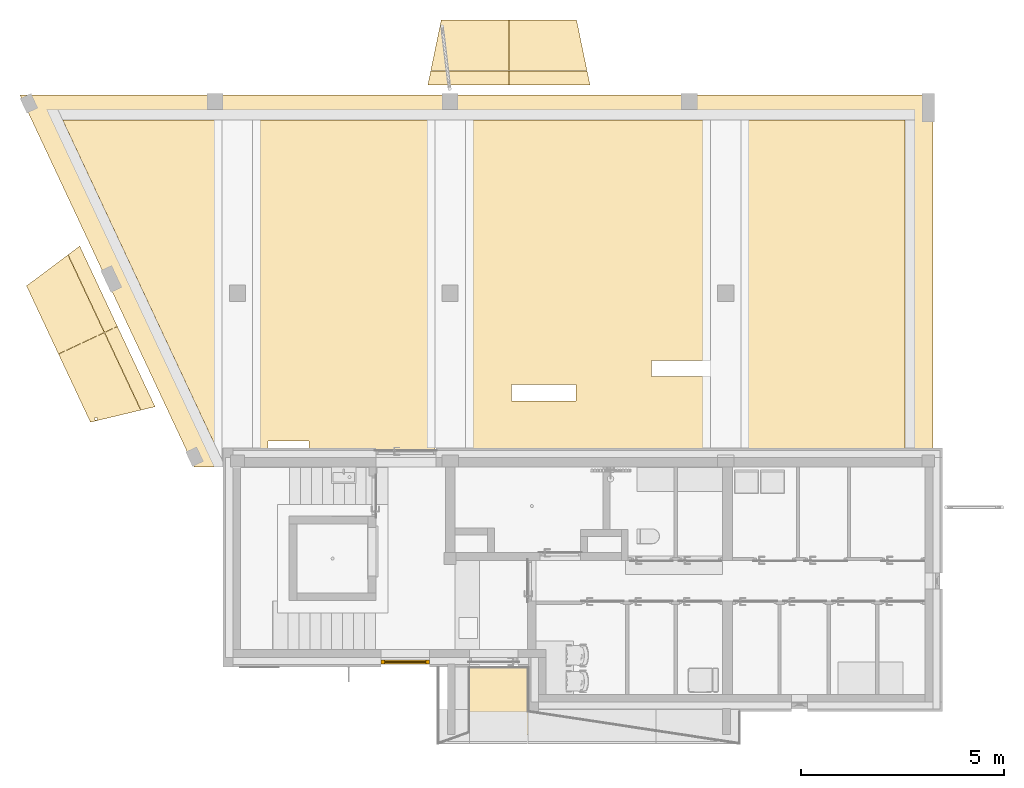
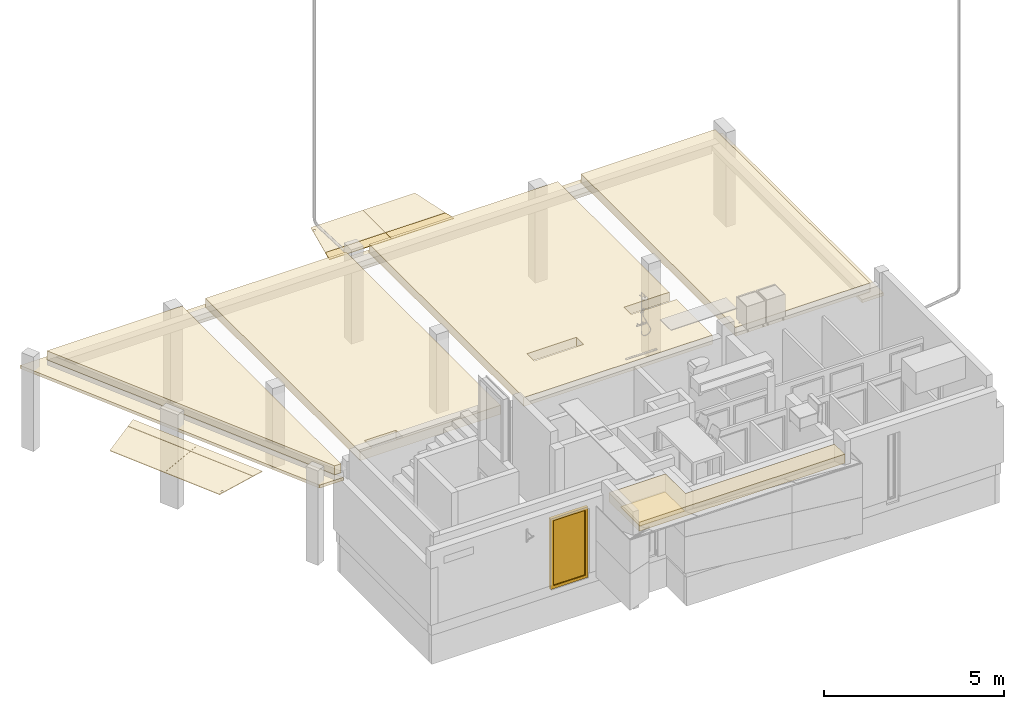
# One storey, part 8 of 55: 10 coverings, 1 window.
"""IFC2X3 building model written with IfcOpenShell, lengths in millimetres."""

from ifc_helpers import new_model, entity, si_unit, converted_unit, direction, frame, frame_2d, origin, place, context, subcontext, project, spatial, polyline, circle_curve, parameter, trimmed, segment, composite_curve, rectangle, outline, extrude, faceted_brep, source, transform, mapped, material, material_list, layer, layer_set, layer_usage, type_object, type_shapes, element, save


model = new_model("IFC2X3")

# Units and contexts
model_context = context("Model", 3, precision=0.01, world=origin(), true_north=direction((6.123233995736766e-17, 1.0)))
plan_context = context("Plan", 3, precision=0.01, world=origin(), true_north=direction((6.123233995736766e-17, 1.0)))
body_context = subcontext(model_context, "Body", "Model", "MODEL_VIEW")
ifc_project = project(units=[si_unit("LENGTHUNIT", "METRE", prefix="MILLI"), converted_unit("PLANEANGLEUNIT", "DEGREE", entity("IfcPlaneAngleMeasure", 0.017453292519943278), si_unit("PLANEANGLEUNIT", "RADIAN"), dimensions=[0, 0, 0, 0, 0, 0, 0]), si_unit("AREAUNIT", "SQUARE_METRE")], contexts=[model_context, plan_context])

# Site, building, storey
site_placement = place(None, origin())
site = spatial("IfcSite", under=ifc_project, at=site_placement, Name="Default", CompositionType="ELEMENT")
building_placement = place(site_placement, origin())
building = spatial("IfcBuilding", under=site, at=building_placement, CompositionType="ELEMENT")
storey_placement = place(building_placement, origin())
storey = spatial("IfcBuildingStorey", under=building, at=storey_placement, Name="1K", CompositionType="ELEMENT", Elevation=0.0)

# Window
ifc_material_1 = material(Name="_K. Avatäited. Raam. PVC. Valge")
ifc_material_2 = material(Name="_K. Klaas. Pakett")
ifc_material_3 = material(Name="_K. Avatäited. Raam. PVC. RAL9005")
ifc_material_list = material_list([ifc_material_1, ifc_material_2, ifc_material_3])
window_style = type_object("IfcWindowStyle", Name="HR_Window_Generic_Rectangle_1x1:A-03.1200x2400.ma", ConstructionType="NOTDEFINED", OperationType="NOTDEFINED", ParameterTakesPrecedence=False, Sizeable=False, material=ifc_material_list)
shared_shape = source(origin(), body_context, "Body", "Brep", [
    faceted_brep([(88.0, -194.0, 2312.0), (1112.0, -194.0, 2312.0), (1112.0, -194.0, 108.0), (88.0, -194.0, 108.0), (1142.0, -194.0, 2342.0), (58.0, -194.0, 2342.0), (58.0, -194.0, 78.0), (1142.0, -194.0, 78.0), (88.0, -159.0, 2312.0), (88.0, -159.0, 108.0), (1112.0, -159.0, 108.0), (1142.0, -159.0, 2342.0), (1142.0, -159.0, 78.0), (58.0, -159.0, 78.0), (58.0, -159.0, 2342.0), (1112.0, -159.0, 2312.0)], [[[0, 1, 2, 3], [4, 5, 6, 7]], [[8, 0, 3, 9]], [[9, 3, 2, 10]], [[11, 12, 13, 14], [15, 8, 9, 10]], [[1, 15, 10, 2]], [[6, 5, 14, 13]], [[7, 6, 13, 12]], [[4, 7, 12, 11]], [[15, 1, 0, 8]], [[5, 4, 11, 14]]], outer=[[False, True], [True], [True], [True, False], [True], [True], [True], [True], [True], [True]]),
    faceted_brep([(1142.0, -159.0, 2342.0), (58.0, -159.0, 2342.0), (58.0, -159.0, 78.0), (1142.0, -159.0, 78.0), (58.0, -134.0, 2342.0), (58.0, -134.0, 78.0), (1142.0, -134.0, 78.0), (1142.0, -134.0, 2342.0)], [[[0, 1, 2, 3]], [[2, 1, 4, 5]], [[3, 2, 5, 6]], [[0, 3, 6, 7]], [[7, 6, 5, 4]], [[1, 0, 7, 4]]]),
    faceted_brep([(1142.0, -134.0, 78.0), (58.0, -134.0, 78.0), (58.0, -194.0, 78.0), (1142.0, -194.0, 78.0), (58.0, -134.0, 2342.0), (58.0, -194.0, 2342.0), (1142.0, -134.0, 2342.0), (1142.0, -194.0, 2342.0), (88.0, -100.0, 108.0), (88.0, -100.0, 2312.0), (88.0, -134.0, 2312.0), (88.0, -134.0, 108.0), (1112.0, -100.0, 108.0), (1112.0, -134.0, 108.0), (1112.0, -100.0, 2312.0), (1112.0, -134.0, 2312.0), (0.0, -100.0, 2400.0), (1200.0, -100.0, 2400.0), (1200.0, -100.0, 30.0), (0.0, -100.0, 30.0), (1200.0, -194.0, 2400.0), (0.0, -194.0, 2400.0), (0.0, -194.0, 30.0), (1200.0, -194.0, 30.0), (0.0, -110.0, 30.0), (0.0, -110.0, 0.0), (0.0, -184.0, 0.0), (0.0, -184.0, 30.0), (1200.0, -184.0, 30.0), (1200.0, -184.0, 0.0), (1200.0, -110.0, 0.0), (1200.0, -110.0, 30.0)], [[[0, 1, 2, 3]], [[1, 4, 5, 2]], [[6, 0, 3, 7]], [[8, 9, 10, 11]], [[12, 8, 11, 13]], [[14, 12, 13, 15]], [[16, 17, 18, 19], [9, 8, 12, 14]], [[20, 21, 22, 23], [7, 3, 2, 5]], [[21, 16, 19, 24, 25, 26, 27, 22]], [[27, 28, 23, 22]], [[17, 20, 23, 28, 29, 30, 31, 18]], [[31, 24, 19, 18]], [[24, 31, 30, 25]], [[25, 30, 29, 26]], [[28, 27, 26, 29]], [[4, 6, 7, 5]], [[9, 14, 15, 10]], [[21, 20, 17, 16]], [[10, 15, 13, 11], [0, 6, 4, 1]]], outer=[[True], [True], [True], [True], [True], [True], [True, False], [True, False], [True], [True], [True], [True], [True], [True], [True], [True], [True], [True], [False, True]]),
])
type_shapes(window_style, [shared_shape])
window_placement = place(storey_placement, frame((4670.0, 1450.0, 0.0), z_axis=(0.0, 0.0, 1.0), x_axis=(-1.0, 0.0, 0.0)))
element("IfcWindow", 1, at=window_placement, inside=storey, type_object=window_style, material=ifc_material_list, Name="HR_Window_Generic_Rectangle_1x1:A-03.1200x2400.ma", ObjectType="HR_Window_Generic_Rectangle_1x1:A-03.1200x2400.ma", OverallHeight=2465.0000000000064, OverallWidth=1200.000000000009, context=body_context, shape_type="MappedRepresentation", body=[
    mapped(shared_shape, transform((0.0, 0.0, 0.0), scale=1.0)),
])

# Coverings
ifc_material_4 = material(Name="_K. Õhk. Roov. Fassaadikatte alusroov. Horisontaalne. 25 mm")
ifc_layer_1 = layer(ifc_material_4, 16.0)
ifc_material_5 = material(Name="_K. Välisviimistlus. Alumiinium-komposiitplaat")
ifc_layer_2 = layer(ifc_material_5, 4.0)
ifc_layer_set_1 = layer_set([ifc_layer_1, ifc_layer_2], Name="Compound Ceiling:Default. 50 mm")
ifc_layer_usage_1 = layer_usage(ifc_layer_set_1, "AXIS3", "NEGATIVE", 20.0)
covering_type_1 = type_object("IfcCoveringType", Name="Compound Ceiling:Default. 50 mm", PredefinedType="CEILING")
covering_1_placement = place(storey_placement, frame((5650.0, 368.9900650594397, 2100.0)))
element("IfcCovering", 2, at=covering_1_placement, inside=storey, type_object=covering_type_1, material=ifc_layer_usage_1, Name="Compound Ceiling:Default. 50 mm", ObjectType="Compound Ceiling:Default. 50 mm", PredefinedType="CEILING", context=body_context, shape_type="SweptSolid", body=[
    extrude(rectangle(XDim=1440.0000000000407, YDim=1081.0099349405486, at=frame_2d((0.0, 161.30795156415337), x_axis=(1.0, 0.0))), frame((720.0, 379.1970159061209, 0.0)), (0.0, 0.0, 1.0), 20.000000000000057),
])
ifc_material_6 = material(Name="_K. Soojustus. Mineraalvill")
ifc_layer_3 = layer(ifc_material_6, 300.0)
ifc_material_7 = material(Name="_K. Välisviimistlus. Alumiinium-komposiitplaat. Must")
ifc_layer_4 = layer(ifc_material_7, 4.0)
ifc_layer_set_2 = layer_set([ifc_layer_3, ifc_layer_4], Name="Compound Ceiling:Parkla soojem lagi")
ifc_layer_usage_2 = layer_usage(ifc_layer_set_2, "AXIS3", "NEGATIVE", 304.0)
covering_type_2 = type_object("IfcCoveringType", Name="Compound Ceiling:Parkla soojem lagi", PredefinedType="CEILING")
covering_2_placement = place(storey_placement, frame((-4786.2952297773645, 6405.000030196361, 2400.9998016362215)))
element("IfcCovering", 3, at=covering_2_placement, inside=storey, type_object=covering_type_2, material=ifc_layer_usage_2, Name="Compound Ceiling:Parkla soojem lagi", ObjectType="Compound Ceiling:Parkla soojem lagi", PredefinedType="CEILING", context=body_context, shape_type="SweptSolid", body=[
    extrude(outline(polyline([(-1123.9487007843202, -4390.782613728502), (-923.9487007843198, -4390.782613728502), (2931.8154802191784, -4390.782613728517), (3212.336529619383, -4390.782613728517), (-923.9487007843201, 4433.236444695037), (-924.4085059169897, 4434.217356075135), (-1123.9487007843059, 4434.217356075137), (-1123.948700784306, 4261.459298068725), (-1123.9487007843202, -4390.782613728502)])), frame((3212.336529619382, 4434.217356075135, 0.0), z_axis=(0.0, 0.0, 1.0), x_axis=(-1.0, 0.0, 0.0)), (0.0, 0.0, 1.0), 304.00000000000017),
    extrude(outline(polyline([(-4351.249999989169, -2250.0050090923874), (-4121.24999998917, -2250.005009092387), (4233.749999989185, -2250.0050090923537), (4233.749999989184, -2050.0050090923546), (4233.749999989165, 2050.0050090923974), (4233.749999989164, 2250.0050090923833), (-4111.249999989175, 2250.005009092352), (-4351.249999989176, 2250.0050090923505), (-4351.249999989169, -2250.0050090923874)]), holes=[polyline([(-4346.250000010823, 859.9949910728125), (-4346.250000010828, 1869.9949910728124), (-3946.250000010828, 1869.9949910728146), (-3946.2500000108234, 859.9949910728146), (-4346.250000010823, 859.9949910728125)])]), frame((7336.290220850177, 4591.24996981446, 0.0), z_axis=(0.0, 0.0, 1.0), x_axis=(0.0, 1.0, 0.0)), (0.0, 0.0, 1.0), 304.00000000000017),
    extrude(outline(polyline([(-3426.428571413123, -1964.2857157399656), (-3196.428571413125, -1964.2857157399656), (-1431.428571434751, -1964.2857157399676), (-1431.4285714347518, -1764.2857157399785), (-1431.428571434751, -514.2857244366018), (-1031.4285714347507, -514.2857244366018), (-1031.4285714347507, -1764.2857157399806), (-1031.4285714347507, -1964.2857157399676), (5158.571428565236, -1964.2857157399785), (5158.571428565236, -1764.2857157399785), (5158.571428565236, 3885.71429404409), (5158.571428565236, 4085.714293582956), (-3196.428571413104, 4085.7142935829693), (-3426.4285714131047, 4085.71429358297), (-3426.428571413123, -1964.2857157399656)]), holes=[polyline([(-2031.428571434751, 1355.7142755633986), (-2031.428571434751, 2945.714275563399), (-1631.428571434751, 2945.714275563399), (-1631.428571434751, 1355.7142755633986), (-2031.428571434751, 1355.7142755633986)])]), frame((14422.009505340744, 3666.4285412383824, 0.0), z_axis=(0.0, 0.0, 1.0), x_axis=(0.0, 1.0, 0.0)), (0.0, 0.0, 1.0), 304.00000000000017),
    extrude(rectangle(XDim=8584.999999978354, YDim=4300.000013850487, at=frame_2d((-38.33333333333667, -683.3333371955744), x_axis=(1.0, 0.0))), frame((18602.96188148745, 4570.833303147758, 0.0), z_axis=(0.0, 0.0, 1.0), x_axis=(0.0, 1.0, 0.0)), (0.0, 0.0, 1.0), 304.00000000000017),
])
ifc_layer_usage_3 = layer_usage(ifc_layer_set_2, "AXIS3", "NEGATIVE", 304.0)
covering_3_placement = place(storey_placement, frame((5300.0, -190.0, 2401.0)))
element("IfcCovering", 4, at=covering_3_placement, inside=storey, type_object=covering_type_2, material=ifc_layer_usage_3, Name="Compound Ceiling:Parkla soojem lagi", ObjectType="Compound Ceiling:Parkla soojem lagi", PredefinedType="CEILING", context=body_context, shape_type="SweptSolid", body=[
    extrude(outline(polyline([(986.6666666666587, -923.3333333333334), (2806.6666666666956, -923.3333333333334), (2806.666666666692, 746.6666666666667), (-3793.3333333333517, 746.6666666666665), (-3793.33333333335, 176.66666666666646), (986.6666666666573, 176.66666666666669), (986.6666666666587, -923.3333333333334)])), frame((2806.6666666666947, 746.666666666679, 0.0), z_axis=(0.0, 0.0, 1.0), x_axis=(-1.0, 0.0, 0.0)), (0.0, 0.0, 1.0), 304.00000000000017),
])
ifc_layer_5 = layer(ifc_material_6, 100.0)
ifc_layer_6 = layer(ifc_material_5, 4.0)
ifc_layer_set_3 = layer_set([ifc_layer_5, ifc_layer_6], Name="Compound Ceiling:Parkla tala alune perimeetris")
ifc_layer_usage_4 = layer_usage(ifc_layer_set_3, "AXIS3", "NEGATIVE", 104.00000000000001)
covering_type_3 = type_object("IfcCoveringType", Name="Compound Ceiling:Parkla tala alune perimeetris", PredefinedType="CEILING")
covering_4_placement = place(storey_placement, frame((-5440.970835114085, 6404.99995949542, 2116.0002021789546)))
element("IfcCovering", 5, at=covering_4_placement, inside=storey, type_object=covering_type_3, material=ifc_layer_usage_4, Name="Compound Ceiling:Parkla tala alune perimeetris", ObjectType="Compound Ceiling:Parkla tala alune perimeetris", PredefinedType="CEILING", context=body_context, shape_type="SweptSolid", body=[
    extrude(outline(polyline([(-4712.77776875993, -11395.723244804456), (4232.222231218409, -11395.723244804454), (4232.222231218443, 11135.247590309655), (-4952.777809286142, 6829.778823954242), (-4952.77780928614, 6067.723521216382), (3622.2222312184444, 10087.28034486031), (3622.2222312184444, 10082.862690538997), (3622.2222312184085, -10705.723240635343), (-4712.777768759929, -10705.723240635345), (-4712.77776875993, -11395.723244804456)])), frame((11135.24759030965, 4952.777809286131, 0.0), z_axis=(0.0, 0.0, 1.0), x_axis=(0.0, 1.0, 0.0)), (0.0, 0.0, 1.0), 103.99999999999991),
])
ifc_layer_7 = layer(ifc_material_4, 16.0)
ifc_layer_8 = layer(ifc_material_5, 4.0)
ifc_layer_set_4 = layer_set([ifc_layer_7, ifc_layer_8], Name="Compound Ceiling:Valge rõdud")
ifc_layer_usage_5 = layer_usage(ifc_layer_set_4, "AXIS3", "NEGATIVE", 20.0)
covering_type_4 = type_object("IfcCoveringType", Name="Compound Ceiling:Valge rõdud", PredefinedType="CEILING")
covering_5_placement = place(storey_placement, frame((-5279.575330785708, 7515.7644151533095, 2115.0)))
element("IfcCovering", 6, at=covering_5_placement, inside=storey, type_object=covering_type_4, material=ifc_layer_usage_5, Name="Compound Ceiling:Valge rõdud", ObjectType="Compound Ceiling:Valge rõdud", PredefinedType="CEILING", context=body_context, shape_type="SweptSolid", body=[
    extrude(outline(polyline([(-1120.9301812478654, -625.0), (992.0343479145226, -625.0), (992.0343479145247, 625.0), (-863.1385145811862, 625.0), (-1120.9301812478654, -625.0)]), holes=[composite_curve([segment(trimmed(circle_curve(frame_2d((-843.4162502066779, 464.02377480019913), x_axis=(-0.42443608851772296, -0.9054578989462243)), 35.0), [parameter(0.0)], [parameter(180.00000000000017)], True, "PARAMETER"), False, "CONTINUOUS"), segment(trimmed(circle_curve(frame_2d((-843.4162502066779, 464.02377480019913), x_axis=(-0.42443608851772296, -0.9054578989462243)), 35.0), [parameter(180.00000000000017)], [parameter(0.0)], True, "PARAMETER"), False, "CONTINUOUS")], self_intersect=False)]), frame((1776.490858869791, 1046.808141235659, 0.0), z_axis=(0.0, 0.0, 1.0), x_axis=(-0.4244360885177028, 0.9054578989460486, 0.0)), (0.0, 0.0, 1.0), 20.000000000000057),
    extrude(outline(polyline([(-625.0, -992.0327559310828), (625.0, -992.0327559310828), (625.0, 1120.9254052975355), (-625.0, 863.1401065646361), (-625.0, -992.0327559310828)])), frame((932.2589975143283, 2847.8246619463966, 0.0), z_axis=(0.0, 0.0, 1.0), x_axis=(0.9054578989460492, 0.42443608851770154, 0.0)), (0.0, 0.0, 1.0), 20.000000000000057),
])
ifc_layer_usage_6 = layer_usage(ifc_layer_set_4, "AXIS3", "NEGATIVE", 20.0)
covering_6_placement = place(storey_placement, frame((-4253.076705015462, 7814.078527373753, 2115.0)))
element("IfcCovering", 7, at=covering_6_placement, inside=storey, type_object=covering_type_4, material=ifc_layer_usage_6, Name="Compound Ceiling:Valge rõdud", ObjectType="Compound Ceiling:Valge rõdud", PredefinedType="CEILING", context=body_context, shape_type="SweptSolid", body=[
    extrude(outline(polyline([(38.44699531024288, -1052.886689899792), (395.83366805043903, -1052.8866898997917), (-45.737147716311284, 1088.2357398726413), (-388.54351564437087, 1017.5376399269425), (38.44699531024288, -1052.886689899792)])), frame((1514.127603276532, 1015.0074126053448, 0.0), z_axis=(0.0, 0.0, 1.0), x_axis=(0.9725243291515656, 0.2328012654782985, 0.0)), (0.0, 0.0, 1.0), 20.000000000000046),
    extrude(outline(polyline([(-175.01030485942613, -1075.0406846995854), (175.01030485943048, -1075.0406846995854), (175.01030485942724, 1111.1327516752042), (-175.01030485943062, 1038.9486177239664), (-175.01030485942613, -1075.0406846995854)])), frame((599.43175040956, 2966.346159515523, 0.0), z_axis=(0.0, 0.0, 1.0), x_axis=(0.9054578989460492, 0.4244360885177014, 0.0)), (0.0, 0.0, 1.0), 20.000000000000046),
])
ifc_layer_usage_7 = layer_usage(ifc_layer_set_4, "AXIS3", "NEGATIVE", 20.0)
covering_7_placement = place(storey_placement, frame((4697.701052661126, 16192.0, 2115.0)))
element("IfcCovering", 8, at=covering_7_placement, inside=storey, type_object=covering_type_4, material=ifc_layer_usage_7, Name="Compound Ceiling:Valge rõdud", ObjectType="Compound Ceiling:Valge rõdud", PredefinedType="CEILING", context=body_context, shape_type="SweptSolid", body=[
    extrude(outline(polyline([(-625.0, -898.0557041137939), (625.0, -898.0557041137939), (625.0, 769.1598707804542), (-625.0, 1026.951537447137), (-625.0, -898.0557041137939)]), holes=[composite_curve([segment(trimmed(circle_curve(frame_2d((462.18264728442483, 749.2360016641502), x_axis=(0.0, -1.0)), 35.0), [parameter(0.0)], [parameter(180.00000000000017)], True, "PARAMETER"), False, "CONTINUOUS"), segment(trimmed(circle_curve(frame_2d((462.18264728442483, 749.2360016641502), x_axis=(0.0, -1.0)), 35.0), [parameter(180.00000000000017)], [parameter(0.0)], True, "PARAMETER"), False, "CONTINUOUS")], self_intersect=False)]), frame((1026.9515374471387, 625.0, 0.0), z_axis=(0.0, 0.0, 1.0), x_axis=(0.0, 1.0, 0.0)), (0.0, 0.0, 1.0), 20.000000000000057),
])
ifc_layer_usage_8 = layer_usage(ifc_layer_set_4, "AXIS3", "NEGATIVE", 20.0)
covering_8_placement = place(storey_placement, frame((6627.7082942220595, 16192.0, 2115.0)))
element("IfcCovering", 9, at=covering_8_placement, inside=storey, type_object=covering_type_4, material=ifc_layer_usage_8, Name="Compound Ceiling:Valge rõdud", ObjectType="Compound Ceiling:Valge rõdud", PredefinedType="CEILING", context=body_context, shape_type="SweptSolid", body=[
    extrude(outline(polyline([(-819.5446051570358, -879.5459626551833), (456.76121376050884, -879.5459626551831), (793.5098796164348, 753.3067891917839), (-430.72648821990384, 1005.7851361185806), (-819.5446051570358, -879.5459626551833)])), frame((898.0557041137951, 625.0, 0.0), z_axis=(0.0, 0.0, 1.0), x_axis=(-0.20198267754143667, 0.9793890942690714, 0.0)), (0.0, 0.0, 1.0), 20.000000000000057),
])
ifc_layer_usage_9 = layer_usage(ifc_layer_set_4, "AXIS3", "NEGATIVE", 20.0)
covering_9_placement = place(storey_placement, frame((4624.694452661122, 15838.0, 2115.0)))
element("IfcCovering", 10, at=covering_9_placement, inside=storey, type_object=covering_type_4, material=ifc_layer_usage_9, Name="Compound Ceiling:Valge rõdud", ObjectType="Compound Ceiling:Valge rõdud", PredefinedType="CEILING", context=body_context, shape_type="SweptSolid", body=[
    extrude(outline(polyline([(-1017.0007791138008, -174.4999999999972), (981.0130624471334, -174.4999999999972), (981.0130624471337, 174.4999999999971), (-945.0253457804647, 174.49999999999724), (-1017.0007791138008, -174.4999999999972)])), frame((1017.0007791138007, 174.49999999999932, 0.0)), (0.0, 0.0, 1.0), 20.000000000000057),
])
ifc_layer_usage_10 = layer_usage(ifc_layer_set_4, "AXIS3", "NEGATIVE", 20.0)
covering_10_placement = place(storey_placement, frame((6627.708294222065, 15838.0, 2115.0)))
element("IfcCovering", 11, at=covering_10_placement, inside=storey, type_object=covering_type_4, material=ifc_layer_usage_10, Name="Compound Ceiling:Valge rõdud", ObjectType="Compound Ceiling:Valge rõdud", PredefinedType="CEILING", context=body_context, shape_type="SweptSolid", body=[
    extrude(outline(polyline([(-376.3199373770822, -960.793494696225), (-19.975352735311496, -960.793494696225), (369.0510420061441, 925.547517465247), (27.24424810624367, 996.0394719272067), (-376.3199373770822, -960.793494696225)])), frame((981.0130624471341, 174.50000000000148, 0.0), z_axis=(0.0, 0.0, 1.0), x_axis=(-0.20198267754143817, 0.9793890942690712, 0.0)), (0.0, 0.0, 1.0), 20.000000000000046),
])

save(model, "model.ifc")
